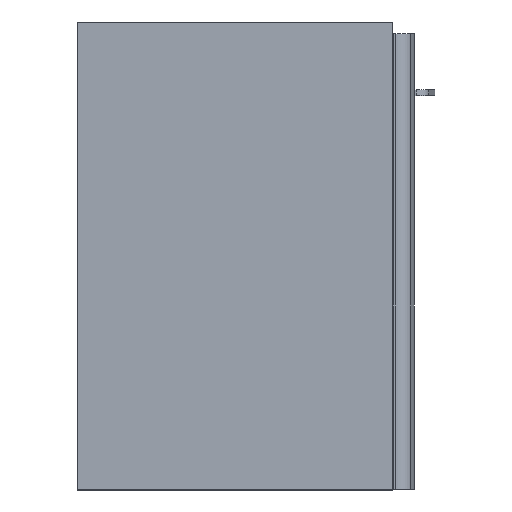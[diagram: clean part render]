
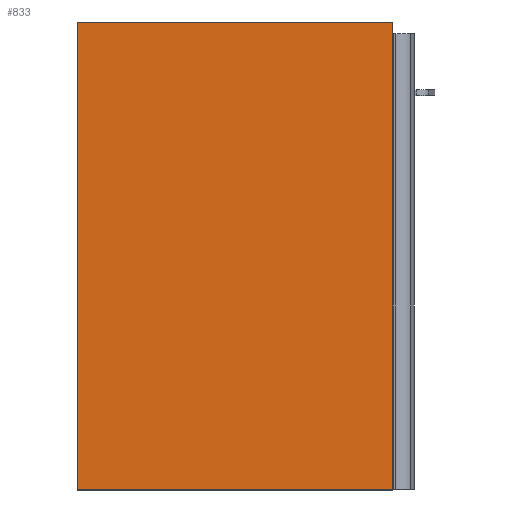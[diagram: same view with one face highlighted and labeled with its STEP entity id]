
A CAD part, left-side view. The second image highlights one B-rep face of the part: STEP entity #833.
In plain terms, the highlighted planar face has unit normal (-1, 0, 0).
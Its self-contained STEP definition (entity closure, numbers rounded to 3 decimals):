
#82=FACE_OUTER_BOUND('',#130,.T.);
#130=EDGE_LOOP('',(#716,#717,#718,#719));
#226=LINE('',#1352,#326);
#227=LINE('',#1354,#327);
#228=LINE('',#1356,#328);
#229=LINE('',#1357,#329);
#326=VECTOR('',#1117,10.);
#327=VECTOR('',#1118,10.);
#328=VECTOR('',#1119,10.);
#329=VECTOR('',#1120,10.);
#406=VERTEX_POINT('',#1350);
#407=VERTEX_POINT('',#1351);
#408=VERTEX_POINT('',#1353);
#409=VERTEX_POINT('',#1355);
#516=EDGE_CURVE('',#406,#407,#226,.T.);
#517=EDGE_CURVE('',#406,#408,#227,.T.);
#518=EDGE_CURVE('',#409,#408,#228,.T.);
#519=EDGE_CURVE('',#407,#409,#229,.T.);
#716=ORIENTED_EDGE('',*,*,#516,.F.);
#717=ORIENTED_EDGE('',*,*,#517,.T.);
#718=ORIENTED_EDGE('',*,*,#518,.F.);
#719=ORIENTED_EDGE('',*,*,#519,.F.);
#788=PLANE('',#913);
#833=ADVANCED_FACE('',(#82),#788,.T.);
#913=AXIS2_PLACEMENT_3D('',#1349,#1115,#1116);
#1115=DIRECTION('center_axis',(-1.,0.,0.));
#1116=DIRECTION('ref_axis',(0.,0.,-1.));
#1117=DIRECTION('',(0.,0.,1.));
#1118=DIRECTION('',(0.,-1.,0.));
#1119=DIRECTION('',(0.,0.,-1.));
#1120=DIRECTION('',(0.,-1.,0.));
#1349=CARTESIAN_POINT('Origin',(-246.5,0.,557.));
#1350=CARTESIAN_POINT('',(-246.5,0.,0.));
#1351=CARTESIAN_POINT('',(-246.5,0.,557.));
#1352=CARTESIAN_POINT('',(-246.5,0.,0.));
#1353=CARTESIAN_POINT('',(-246.5,-375.,0.));
#1354=CARTESIAN_POINT('',(-246.5,0.,0.));
#1355=CARTESIAN_POINT('',(-246.5,-375.,557.));
#1356=CARTESIAN_POINT('',(-246.5,-375.,0.));
#1357=CARTESIAN_POINT('',(-246.5,0.,557.));
